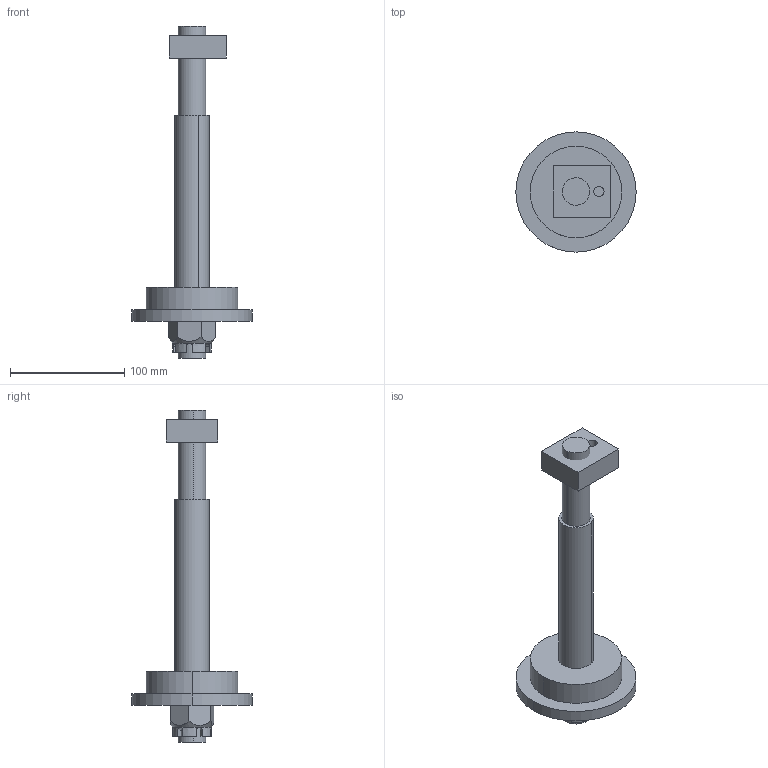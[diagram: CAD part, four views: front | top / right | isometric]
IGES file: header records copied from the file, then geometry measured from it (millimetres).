
Start section: START RECORD GO HERE.
Global section: file name: 740T-24.igs; native system: DASSAULT SYSTEMES CATIA V5 R20 - www.3ds.com; preprocessor: CATIA Version 5 Release 20 ; author: Utente; organization: NB04-ASUS; date: 20201027.200021; units: millimetre
Bounding box: 105 x 105 x 290 mm (x, y, z)
Surface area: 104298.2 mm2 (no closed solid volume)
Topology: 0 solids, 0 shells, 75 faces, 368 edges, 368 vertices
Faces by surface type: plane 39, revolution 36
